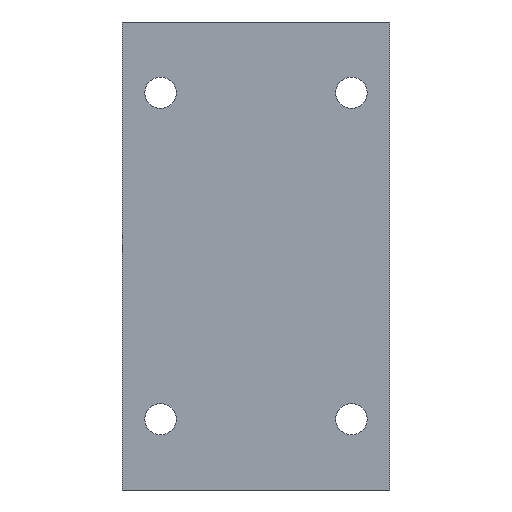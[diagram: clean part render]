
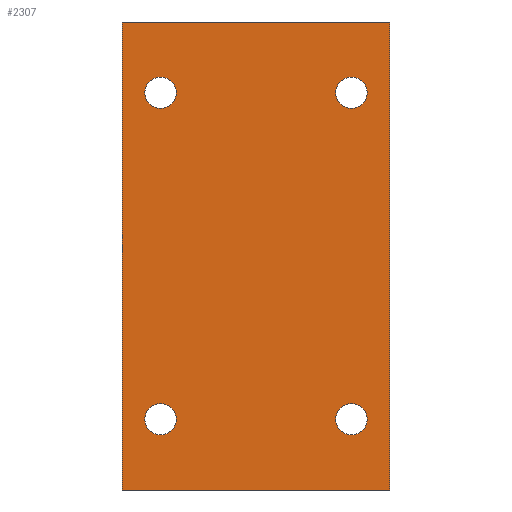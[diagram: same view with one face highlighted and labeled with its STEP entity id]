
A CAD part, front view. The second image highlights one B-rep face of the part: STEP entity #2307.
In plain terms, the highlighted planar face has unit normal (0, -1, 0).
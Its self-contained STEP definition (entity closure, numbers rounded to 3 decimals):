
#22 = ORIENTED_EDGE ( 'NONE', *, *, #1206, .F. ) ;
#25 = CARTESIAN_POINT ( 'NONE',  ( -31., -30., -47.9 ) ) ;
#42 = DIRECTION ( 'NONE',  ( 0., -1., 0. ) ) ;
#44 = AXIS2_PLACEMENT_3D ( 'NONE', #1323, #414, #1143 ) ;
#52 = FACE_BOUND ( 'NONE', #2245, .T. ) ;
#88 = AXIS2_PLACEMENT_3D ( 'NONE', #507, #323, #1419 ) ;
#125 = CARTESIAN_POINT ( 'NONE',  ( 31., -30., 47.9 ) ) ;
#159 = CARTESIAN_POINT ( 'NONE',  ( 31., -30., 53. ) ) ;
#179 = LINE ( 'NONE', #709, #1046 ) ;
#237 = VERTEX_POINT ( 'NONE', #1862 ) ;
#239 = AXIS2_PLACEMENT_3D ( 'NONE', #1452, #533, #920 ) ;
#242 = CIRCLE ( 'NONE', #1792, 5.1 ) ;
#279 = AXIS2_PLACEMENT_3D ( 'NONE', #1706, #42, #783 ) ;
#297 = LINE ( 'NONE', #2143, #475 ) ;
#323 = DIRECTION ( 'NONE',  ( 0., -1., 0. ) ) ;
#363 = VERTEX_POINT ( 'NONE', #1915 ) ;
#396 = CIRCLE ( 'NONE', #44, 5.1 ) ;
#414 = DIRECTION ( 'NONE',  ( 0., -1., 0. ) ) ;
#449 = VERTEX_POINT ( 'NONE', #787 ) ;
#475 = VECTOR ( 'NONE', #1415, 1000. ) ;
#507 = CARTESIAN_POINT ( 'NONE',  ( -31., -30., -53. ) ) ;
#527 = EDGE_LOOP ( 'NONE', ( #1251, #1772 ) ) ;
#533 = DIRECTION ( 'NONE',  ( 0., -1., 0. ) ) ;
#576 = DIRECTION ( 'NONE',  ( 0., 0., -1. ) ) ;
#620 = CIRCLE ( 'NONE', #1708, 5.1 ) ;
#636 = CARTESIAN_POINT ( 'NONE',  ( 43.5, -30., 76. ) ) ;
#656 = VERTEX_POINT ( 'NONE', #1593 ) ;
#689 = DIRECTION ( 'NONE',  ( 0., -1., 0. ) ) ;
#692 = VERTEX_POINT ( 'NONE', #2175 ) ;
#709 = CARTESIAN_POINT ( 'NONE',  ( -43.5, -30., -76. ) ) ;
#753 = EDGE_CURVE ( 'NONE', #1996, #363, #620, .T. ) ;
#757 = EDGE_LOOP ( 'NONE', ( #1395, #1304 ) ) ;
#783 = DIRECTION ( 'NONE',  ( 0., 0., -1. ) ) ;
#787 = CARTESIAN_POINT ( 'NONE',  ( -31., -30., 58.1 ) ) ;
#795 = DIRECTION ( 'NONE',  ( 0., -1., 0. ) ) ;
#809 = DIRECTION ( 'NONE',  ( 0., 0., -1. ) ) ;
#865 = FACE_BOUND ( 'NONE', #2302, .T. ) ;
#890 = AXIS2_PLACEMENT_3D ( 'NONE', #1144, #2250, #962 ) ;
#894 = VERTEX_POINT ( 'NONE', #1696 ) ;
#916 = ORIENTED_EDGE ( 'NONE', *, *, #1370, .F. ) ;
#920 = DIRECTION ( 'NONE',  ( 0., 0., -1. ) ) ;
#948 = ORIENTED_EDGE ( 'NONE', *, *, #1736, .F. ) ;
#955 = ORIENTED_EDGE ( 'NONE', *, *, #1325, .F. ) ;
#962 = DIRECTION ( 'NONE',  ( 0., 0., -1. ) ) ;
#990 = ORIENTED_EDGE ( 'NONE', *, *, #1481, .T. ) ;
#1011 = CIRCLE ( 'NONE', #239, 5.1 ) ;
#1019 = FACE_OUTER_BOUND ( 'NONE', #2004, .T. ) ;
#1025 = EDGE_CURVE ( 'NONE', #449, #656, #2123, .T. ) ;
#1046 = VECTOR ( 'NONE', #1808, 1000. ) ;
#1059 = DIRECTION ( 'NONE',  ( 0., 0., 1. ) ) ;
#1127 = CIRCLE ( 'NONE', #88, 5.1 ) ;
#1143 = DIRECTION ( 'NONE',  ( 0., 0., -1. ) ) ;
#1144 = CARTESIAN_POINT ( 'NONE',  ( 31., -30., -53. ) ) ;
#1185 = VERTEX_POINT ( 'NONE', #1779 ) ;
#1206 = EDGE_CURVE ( 'NONE', #1185, #1439, #297, .T. ) ;
#1228 = ORIENTED_EDGE ( 'NONE', *, *, #753, .F. ) ;
#1238 = FACE_BOUND ( 'NONE', #757, .T. ) ;
#1251 = ORIENTED_EDGE ( 'NONE', *, *, #1645, .F. ) ;
#1256 = LINE ( 'NONE', #2051, #2279 ) ;
#1304 = ORIENTED_EDGE ( 'NONE', *, *, #1874, .F. ) ;
#1323 = CARTESIAN_POINT ( 'NONE',  ( 31., -30., -53. ) ) ;
#1325 = EDGE_CURVE ( 'NONE', #363, #1996, #1011, .T. ) ;
#1356 = CIRCLE ( 'NONE', #890, 5.1 ) ;
#1370 = EDGE_CURVE ( 'NONE', #1451, #2039, #2236, .T. ) ;
#1392 = EDGE_CURVE ( 'NONE', #237, #2259, #396, .T. ) ;
#1395 = ORIENTED_EDGE ( 'NONE', *, *, #1392, .F. ) ;
#1415 = DIRECTION ( 'NONE',  ( 1., 0., 0. ) ) ;
#1419 = DIRECTION ( 'NONE',  ( 0., 0., -1. ) ) ;
#1439 = VERTEX_POINT ( 'NONE', #636 ) ;
#1451 = VERTEX_POINT ( 'NONE', #2159 ) ;
#1452 = CARTESIAN_POINT ( 'NONE',  ( 31., -30., 53. ) ) ;
#1481 = EDGE_CURVE ( 'NONE', #894, #692, #179, .T. ) ;
#1531 = DIRECTION ( 'NONE',  ( 0., 0., -1. ) ) ;
#1556 = AXIS2_PLACEMENT_3D ( 'NONE', #2155, #1939, #1059 ) ;
#1572 = CARTESIAN_POINT ( 'NONE',  ( -31., -30., 53. ) ) ;
#1593 = CARTESIAN_POINT ( 'NONE',  ( -31., -30., 47.9 ) ) ;
#1624 = AXIS2_PLACEMENT_3D ( 'NONE', #2119, #795, #1531 ) ;
#1645 = EDGE_CURVE ( 'NONE', #656, #449, #242, .T. ) ;
#1680 = DIRECTION ( 'NONE',  ( 0., 0., -1. ) ) ;
#1694 = LINE ( 'NONE', #2036, #1863 ) ;
#1696 = CARTESIAN_POINT ( 'NONE',  ( -43.5, -30., -76. ) ) ;
#1706 = CARTESIAN_POINT ( 'NONE',  ( -31., -30., -53. ) ) ;
#1708 = AXIS2_PLACEMENT_3D ( 'NONE', #159, #2311, #1804 ) ;
#1716 = EDGE_CURVE ( 'NONE', #1185, #894, #1256, .T. ) ;
#1736 = EDGE_CURVE ( 'NONE', #1439, #692, #1694, .T. ) ;
#1756 = ORIENTED_EDGE ( 'NONE', *, *, #1716, .T. ) ;
#1772 = ORIENTED_EDGE ( 'NONE', *, *, #1025, .F. ) ;
#1779 = CARTESIAN_POINT ( 'NONE',  ( -43.5, -30., 76. ) ) ;
#1792 = AXIS2_PLACEMENT_3D ( 'NONE', #1572, #689, #809 ) ;
#1796 = FACE_BOUND ( 'NONE', #527, .T. ) ;
#1804 = DIRECTION ( 'NONE',  ( 0., 0., -1. ) ) ;
#1805 = ORIENTED_EDGE ( 'NONE', *, *, #2365, .F. ) ;
#1808 = DIRECTION ( 'NONE',  ( 1., 0., 0. ) ) ;
#1862 = CARTESIAN_POINT ( 'NONE',  ( 31., -30., -58.1 ) ) ;
#1863 = VECTOR ( 'NONE', #576, 1000. ) ;
#1874 = EDGE_CURVE ( 'NONE', #2259, #237, #1356, .T. ) ;
#1915 = CARTESIAN_POINT ( 'NONE',  ( 31., -30., 58.1 ) ) ;
#1939 = DIRECTION ( 'NONE',  ( 0., 1., 0. ) ) ;
#1996 = VERTEX_POINT ( 'NONE', #125 ) ;
#2004 = EDGE_LOOP ( 'NONE', ( #990, #948, #22, #1756 ) ) ;
#2036 = CARTESIAN_POINT ( 'NONE',  ( 43.5, -30., 76. ) ) ;
#2039 = VERTEX_POINT ( 'NONE', #25 ) ;
#2051 = CARTESIAN_POINT ( 'NONE',  ( -43.5, -30., 76. ) ) ;
#2060 = CARTESIAN_POINT ( 'NONE',  ( 31., -30., -47.9 ) ) ;
#2119 = CARTESIAN_POINT ( 'NONE',  ( -31., -30., 53. ) ) ;
#2123 = CIRCLE ( 'NONE', #1624, 5.1 ) ;
#2143 = CARTESIAN_POINT ( 'NONE',  ( -43.5, -30., 76. ) ) ;
#2155 = CARTESIAN_POINT ( 'NONE',  ( -43.5, -30., 76. ) ) ;
#2159 = CARTESIAN_POINT ( 'NONE',  ( -31., -30., -58.1 ) ) ;
#2175 = CARTESIAN_POINT ( 'NONE',  ( 43.5, -30., -76. ) ) ;
#2236 = CIRCLE ( 'NONE', #279, 5.1 ) ;
#2245 = EDGE_LOOP ( 'NONE', ( #1228, #955 ) ) ;
#2250 = DIRECTION ( 'NONE',  ( 0., -1., 0. ) ) ;
#2259 = VERTEX_POINT ( 'NONE', #2060 ) ;
#2279 = VECTOR ( 'NONE', #1680, 1000. ) ;
#2302 = EDGE_LOOP ( 'NONE', ( #916, #1805 ) ) ;
#2307 = ADVANCED_FACE ( 'NONE', ( #52, #1796, #865, #1019, #1238 ), #2325, .F. ) ;
#2311 = DIRECTION ( 'NONE',  ( 0., -1., 0. ) ) ;
#2325 = PLANE ( 'NONE',  #1556 ) ;
#2365 = EDGE_CURVE ( 'NONE', #2039, #1451, #1127, .T. ) ;
